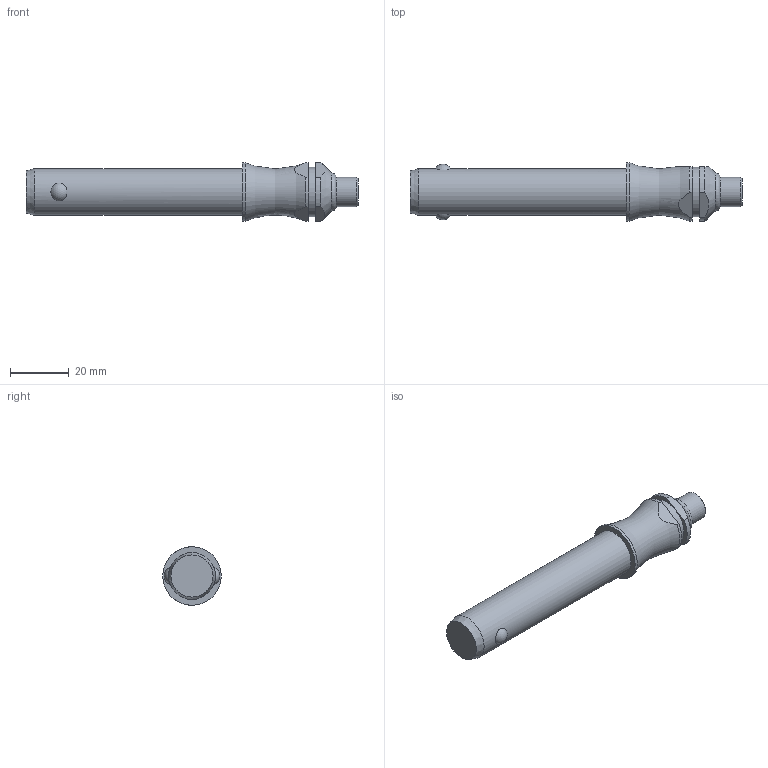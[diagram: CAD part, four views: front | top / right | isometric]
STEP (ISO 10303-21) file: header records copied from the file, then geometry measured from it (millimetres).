
FILE_DESCRIPTION( ( 'STEP AP203' ), '1' );
FILE_NAME( 'C:/Temp/Ganter_Step_05_03_2020/data/3_1/gn113_3/Stainless Steel-Ball lock pin GN 113.3-16-60 (deactivated).stp', '2020-03-12T08:18:54', ( 'License CC BY-ND 4.0' ), ( 'CADENAS' ), ' ', 'PARTsolutions', ' ' );
FILE_SCHEMA( ( 'CONFIG_CONTROL_DESIGN' ) );
Length unit declared in the file: millimetre
Products named in the file (1): _Stainless Steel-Ball lock pin GN 113.3-16-60 (deactivated)
Bounding box: 113.5 x 20 x 20 mm (x, y, z)
Volume: 22827.8 mm3; surface area: 6279.7 mm2
Topology: 1 solids, 1 shells, 28 faces, 60 edges, 39 vertices
Faces by surface type: plane 11, cylinder 10, cone 3, torus 2, sphere 2
Full cylindrical faces by diameter (mm): 10 x1, 16 x1, 17 x1, 20 x1
Entity records: 966 total; most frequent: CARTESIAN_POINT 350, DIRECTION 122, ORIENTED_EDGE 98, AXIS2_PLACEMENT_3D 52, EDGE_CURVE 49, EDGE_LOOP 42, VERTEX_POINT 38, FACE_OUTER_BOUND 34
